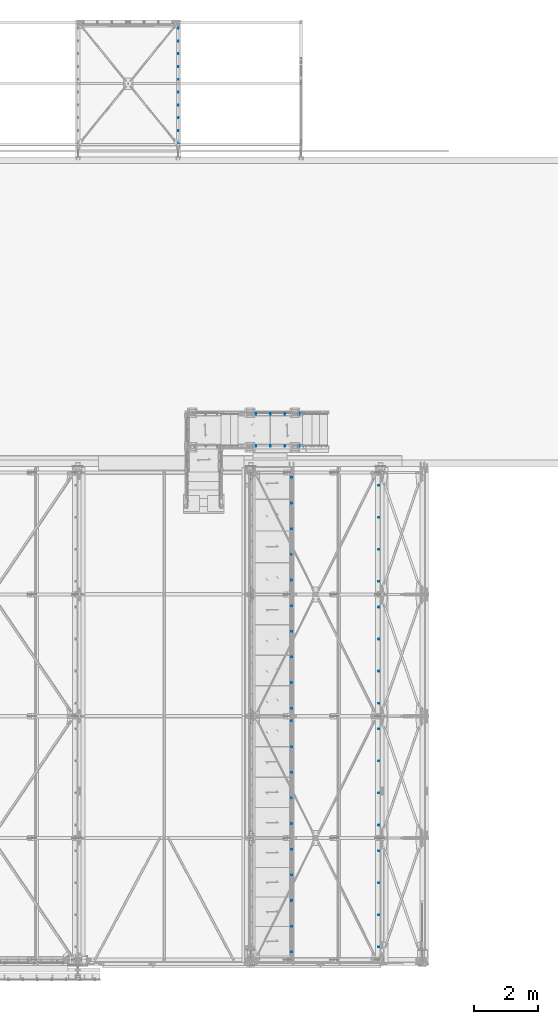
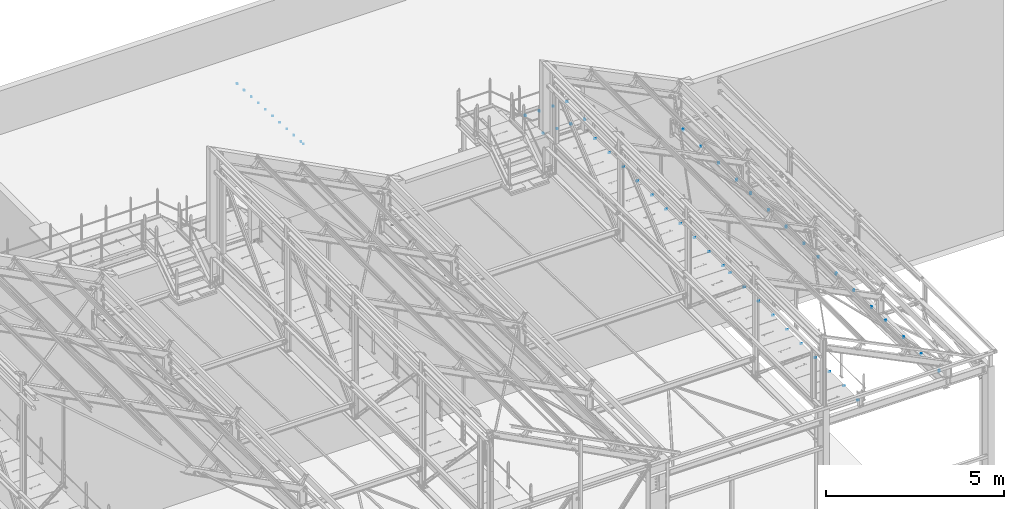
# One storey, part 139 of 362: 9 mechanical fasteners.
"""IFC2X3 building model written with IfcOpenShell, lengths in millimetres."""

from ifc_helpers import new_model, si_unit, frame, frame_2d, origin_with_axes, origin_2d_with_axis, place, context, subcontext, project, spatial, polyline, circle_curve, parameter, trimmed, segment, composite_curve, circle, outline, extrude, source, transform, mapped, material, type_object, element, save


model = new_model("IFC2X3")

# Units and contexts
model_context = context("Model", 3, precision=1e-05, world=origin_with_axes())
body_context = subcontext(model_context, "Body", "Model", "MODEL_VIEW")
ifc_project = project(units=[si_unit("LENGTHUNIT", "METRE", prefix="MILLI"), si_unit("AREAUNIT", "SQUARE_METRE"), si_unit("VOLUMEUNIT", "CUBIC_METRE"), si_unit("MASSUNIT", "GRAM", prefix="KILO"), si_unit("TIMEUNIT", "SECOND"), si_unit("PLANEANGLEUNIT", "RADIAN"), si_unit("SOLIDANGLEUNIT", "STERADIAN"), si_unit("THERMODYNAMICTEMPERATUREUNIT", "DEGREE_CELSIUS"), si_unit("LUMINOUSINTENSITYUNIT", "LUMEN")], contexts=[model_context])

# Site, building, storey
site_placement = place(None, origin_with_axes())
site = spatial("IfcSite", under=ifc_project, at=site_placement, Name="Undefined", CompositionType="ELEMENT")
building_placement = place(site_placement, origin_with_axes())
building = spatial("IfcBuilding", under=site, at=building_placement, Name="Undefined", CompositionType="ELEMENT")
storey_placement = place(building_placement, origin_with_axes())
storey = spatial("IfcBuildingStorey", under=building, at=storey_placement, Name="Undefined", CompositionType="ELEMENT", Elevation=0.0)

# Mechanical fasteners
ifc_material_1 = material(Name="8.8-SB-GALVA")
mechanical_fastener_type = type_object("IfcMechanicalFastenerType", Name="Bolt assembly")
shared_shape_1 = source(origin_with_axes(), body_context, "Body", "SweptSolid", [
    extrude(circle(Radius=7.0, at=origin_2d_with_axis()), frame((0.0, -9.89949506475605, 0.0), z_axis=(0.0, 1.0, 0.0), x_axis=(1.0, 0.0, 0.0)), (0.0, 0.0, 1.0), 10.0),
    extrude(circle(Radius=7.0, at=origin_2d_with_axis()), frame((0.0, -0.100011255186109, 0.0), z_axis=(0.0, 1.0, 0.0), x_axis=(1.0, 0.0, 0.0)), (0.0, 0.0, 1.0), 5.1),
    extrude(outline(polyline([(10.39230484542, 0.0), (5.19615242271, 9.00000000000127), (-5.19615242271, 9.00000000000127), (-10.39230484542, 0.0), (-5.19615242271, -9.00000000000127), (5.19615242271, -9.00000000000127), (10.39230484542, 0.0)])), frame((0.0, -17.919495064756, 0.0), z_axis=(0.0, 1.0, 0.0), x_axis=(1.0, 0.0, 0.0)), (0.0, 0.0, 1.0), 7.92),
    extrude(circle(Radius=6.0, at=origin_2d_with_axis()), frame((0.0, -9.99949506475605, 0.0), z_axis=(0.0, 1.0, 0.0), x_axis=(1.0, 0.0, 0.0)), (0.0, 0.0, 1.0), 30.0),
    extrude(outline(polyline([(11.5008173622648, 0.0), (5.7504086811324, 9.96000000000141), (-5.7504086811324, 9.96000000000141), (-11.5008173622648, 0.0), (-5.7504086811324, -9.96000000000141), (5.7504086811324, -9.96000000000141), (11.5008173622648, 0.0)])), frame((0.0, 5.0, 0.0), z_axis=(0.0, 1.0, 0.0), x_axis=(1.0, 0.0, 0.0)), (0.0, 0.0, 1.0), 7.92),
])
mechanical_fastener_1_placement = place(storey_placement, frame((35114.9999902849, 17029.999913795, 8049.9999407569), z_axis=(1.0, 0.0, 0.0), x_axis=(0.0, 0.0, 1.0)))
element("IfcMechanicalFastener", 1, at=mechanical_fastener_1_placement, inside=storey, type_object=mechanical_fastener_type, material=ifc_material_1, Name="Bolt assembly", NominalDiameter=12.0, NominalLength=30.0, context=body_context, shape_type="MappedRepresentation", body=[
    mapped(shared_shape_1, transform((0.0, 0.0, 675.0))),
    mapped(shared_shape_1, transform((0.0, 0.0, 225.0))),
    mapped(shared_shape_1, transform((0.0, 0.0, -225.0))),
    mapped(shared_shape_1, transform((0.0, 0.0, -675.0))),
])
shared_shape_2 = source(origin_with_axes(), body_context, "Body", "SweptSolid", [
    extrude(circle(Radius=7.0, at=origin_2d_with_axis()), frame((0.0, -9.9, 0.0), z_axis=(0.0, 1.0, 0.0), x_axis=(1.0, 0.0, 0.0)), (0.0, 0.0, 1.0), 10.0),
    extrude(circle(Radius=7.0, at=origin_2d_with_axis()), frame((0.0, -0.100011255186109, 0.0), z_axis=(0.0, 1.0, 0.0), x_axis=(1.0, 0.0, 0.0)), (0.0, 0.0, 1.0), 5.1),
    extrude(outline(polyline([(10.39230484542, 0.0), (5.19615242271, 9.00000000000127), (-5.19615242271, 9.00000000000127), (-10.39230484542, 0.0), (-5.19615242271, -9.00000000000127), (5.19615242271, -9.00000000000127), (10.39230484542, 0.0)])), frame((0.0, -17.92, 0.0), z_axis=(0.0, 1.0, 0.0), x_axis=(1.0, 0.0, 0.0)), (0.0, 0.0, 1.0), 7.92),
    extrude(circle(Radius=6.0, at=origin_2d_with_axis()), frame((0.0, -10.0000010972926, 0.0), z_axis=(0.0, 1.0, 0.0), x_axis=(1.0, 0.0, 0.0)), (0.0, 0.0, 1.0), 30.0),
    extrude(outline(polyline([(11.5008173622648, 0.0), (5.7504086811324, 9.96000000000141), (-5.7504086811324, 9.96000000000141), (-11.5008173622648, 0.0), (-5.7504086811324, -9.96000000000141), (5.7504086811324, -9.96000000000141), (11.5008173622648, 0.0)])), frame((0.0, 5.0, 0.0), z_axis=(0.0, 1.0, 0.0), x_axis=(1.0, 0.0, 0.0)), (0.0, 0.0, 1.0), 7.92),
])
mechanical_fastener_2_placement = place(storey_placement, frame((35114.9999902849, 16029.9996683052, 8049.9999407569), z_axis=(-1.0, 0.0, 0.0), x_axis=(0.0, 0.0, 1.0)))
element("IfcMechanicalFastener", 2, at=mechanical_fastener_2_placement, inside=storey, type_object=mechanical_fastener_type, material=ifc_material_1, Name="Bolt assembly", NominalDiameter=12.0, NominalLength=30.0, context=body_context, shape_type="MappedRepresentation", body=[
    mapped(shared_shape_2, transform((0.0, 0.0, -675.0))),
    mapped(shared_shape_2, transform((0.0, 0.0, -225.0))),
    mapped(shared_shape_2, transform((0.0, 0.0, 225.0))),
    mapped(shared_shape_2, transform((0.0, 0.0, 675.0))),
])
ifc_material_2 = material(Name="#_SB-8.8-ZINGUE")
shared_shape_3 = source(origin_with_axes(), body_context, "Body", "SweptSolid", [
    extrude(outline(composite_curve([segment(polyline([(-7.0, 7.0), (7.0, 7.0)]), True, "CONTINUOUS"), segment(trimmed(circle_curve(frame_2d((7.0, 0.0), x_axis=(0.0, 1.0)), 7.0), [parameter(0.0)], [parameter(3.14159265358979)], False, "PARAMETER"), True, "CONTINUOUS"), segment(polyline([(7.0, -7.0), (-7.0, -7.0)]), True, "CONTINUOUS"), segment(trimmed(circle_curve(frame_2d((-7.0, 0.0), x_axis=(0.0, -1.0)), 7.0), [parameter(0.0)], [parameter(3.14159265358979)], False, "PARAMETER"), True, "DISCONTINUOUS")], self_intersect=False)), frame((0.0, 0.0, 0.0), z_axis=(0.0, 1.0, 0.0), x_axis=(1.0, 0.0, 0.0)), (0.0, 0.0, 1.0), 7.5),
])
mechanical_fastener_3_placement = place(storey_placement, frame((32024.0000011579, 29060.1369729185, 2687.2020481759), z_axis=(-1.0, 0.0, 0.0), x_axis=(0.0, -0.998630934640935, 0.0523092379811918)))
element("IfcMechanicalFastener", 3, at=mechanical_fastener_3_placement, inside=storey, type_object=mechanical_fastener_type, material=ifc_material_2, Name="Bolt assembly", NominalDiameter=12.0, NominalLength=7.40000009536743, context=body_context, shape_type="MappedRepresentation", body=[
    mapped(shared_shape_3, transform((0.0, 0.0, 0.0))),
    mapped(shared_shape_3, transform((400.0, 0.0, 0.0))),
    mapped(shared_shape_3, transform((800.0, 0.0, 0.0))),
    mapped(shared_shape_3, transform((1200.0, 0.0, 0.0))),
    mapped(shared_shape_3, transform((1600.0, 0.0, 0.0))),
    mapped(shared_shape_3, transform((2000.0, 0.0, 0.0))),
    mapped(shared_shape_3, transform((2400.00000000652, -2.00816430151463e-09, 0.0))),
    mapped(shared_shape_3, transform((2800.0000000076, -2.34285835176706e-09, 0.0))),
    mapped(shared_shape_3, transform((3200.00000000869, -2.6775524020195e-09, 0.0))),
    mapped(shared_shape_3, transform((3600.00000000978, -3.01224645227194e-09, 0.0))),
    mapped(shared_shape_3, transform((3730.00000001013, -3.12138581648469e-09, 0.0))),
])
shared_shape_4 = source(origin_with_axes(), body_context, "Body", "SweptSolid", [
    extrude(circle(Radius=7.0, at=origin_2d_with_axis()), frame((0.0, -0.101465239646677, 0.0), z_axis=(0.0, 1.0, 0.0), x_axis=(1.0, 0.0, 0.0)), (0.0, 0.0, 1.0), 14.7),
    extrude(outline(composite_curve([segment(polyline([(-7.0, 7.0), (7.0, 7.0)]), True, "CONTINUOUS"), segment(trimmed(circle_curve(frame_2d((7.0, 0.0), x_axis=(0.0, 1.0)), 7.0), [parameter(0.0)], [parameter(3.14159265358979)], False, "PARAMETER"), True, "CONTINUOUS"), segment(polyline([(7.0, -7.0), (-7.0, -7.0)]), True, "CONTINUOUS"), segment(trimmed(circle_curve(frame_2d((-7.0, 0.0), x_axis=(0.0, -1.0)), 7.0), [parameter(0.0)], [parameter(3.14159265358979)], False, "PARAMETER"), True, "DISCONTINUOUS")], self_intersect=False)), frame((0.0, -1.90048839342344, 0.0), z_axis=(0.0, 1.0, 0.0), x_axis=(1.0, 0.0, 0.0)), (0.0, 0.0, 1.0), 2.0),
    extrude(outline(polyline([(10.39230484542, 0.0), (5.19615242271, 9.00000000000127), (-5.19615242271, 9.00000000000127), (-10.39230484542, 0.0), (-5.19615242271, -9.00000000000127), (5.19615242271, -9.00000000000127), (10.39230484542, 0.0)])), frame((0.0, -13.8804883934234, 0.0), z_axis=(0.0, 1.0, 0.0), x_axis=(1.0, 0.0, 0.0)), (0.0, 0.0, 1.0), 7.92),
    extrude(circle(Radius=6.0, at=origin_2d_with_axis()), frame((0.0, -5.96048839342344, 0.0), z_axis=(0.0, 1.0, 0.0), x_axis=(1.0, 0.0, 0.0)), (0.0, 0.0, 1.0), 40.0),
    extrude(circle(Radius=10.8, at=origin_2d_with_axis()), frame((0.0, -5.96048839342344, 0.0), z_axis=(0.0, 1.0, 0.0), x_axis=(1.0, 0.0, 0.0)), (0.0, 0.0, 1.0), 3.96),
    extrude(outline(polyline([(11.5008173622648, 0.0), (5.7504086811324, 9.96000000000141), (-5.7504086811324, 9.96000000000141), (-11.5008173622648, 0.0), (-5.7504086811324, -9.96000000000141), (5.7504086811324, -9.96000000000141), (11.5008173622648, 0.0)])), frame((0.0, 14.5985351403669, 0.0), z_axis=(0.0, 1.0, 0.0), x_axis=(1.0, 0.0, 0.0)), (0.0, 0.0, 1.0), 7.92),
])
mechanical_fastener_4_placement = place(storey_placement, frame((38275.0, 1899.68552408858, 7990.2999774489), z_axis=(0.0, -0.999506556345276, 0.031410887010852), x_axis=(-1.0, 0.0, 0.0)))
element("IfcMechanicalFastener", 4, at=mechanical_fastener_4_placement, inside=storey, type_object=mechanical_fastener_type, material=ifc_material_2, Name="Bolt assembly", NominalDiameter=12.0, NominalLength=40.0, context=body_context, shape_type="MappedRepresentation", body=[
    mapped(shared_shape_4, transform((0.0, 6.70297595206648e-10, -1499.99999999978))),
    mapped(shared_shape_4, transform((0.0, 2.2373569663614e-10, -499.999999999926))),
    mapped(shared_shape_4, transform((0.0, -2.2373569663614e-10, 499.999999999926))),
    mapped(shared_shape_4, transform((0.0, -6.71207089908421e-10, 1499.99999999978))),
])
shared_shape_5 = source(origin_with_axes(), body_context, "Body", "SweptSolid", [
    extrude(circle(Radius=7.0, at=origin_2d_with_axis()), frame((0.0, -0.101001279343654, 0.0), z_axis=(0.0, 1.0, 0.0), x_axis=(1.0, 0.0, 0.0)), (0.0, 0.0, 1.0), 14.7),
    extrude(outline(composite_curve([segment(polyline([(-7.0, 7.0), (7.0, 7.0)]), True, "CONTINUOUS"), segment(trimmed(circle_curve(frame_2d((7.0, 0.0), x_axis=(0.0, 1.0)), 7.0), [parameter(0.0)], [parameter(3.14159265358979)], False, "PARAMETER"), True, "CONTINUOUS"), segment(polyline([(7.0, -7.0), (-7.0, -7.0)]), True, "CONTINUOUS"), segment(trimmed(circle_curve(frame_2d((-7.0, 0.0), x_axis=(0.0, -1.0)), 7.0), [parameter(0.0)], [parameter(3.14159265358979)], False, "PARAMETER"), True, "DISCONTINUOUS")], self_intersect=False)), frame((0.0, -1.90048839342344, 0.0), z_axis=(0.0, 1.0, 0.0), x_axis=(1.0, 0.0, 0.0)), (0.0, 0.0, 1.0), 2.0),
    extrude(outline(polyline([(10.39230484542, 0.0), (5.19615242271, 9.00000000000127), (-5.19615242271, 9.00000000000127), (-10.39230484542, 0.0), (-5.19615242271, -9.00000000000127), (5.19615242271, -9.00000000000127), (10.39230484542, 0.0)])), frame((0.0, -13.8804883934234, 0.0), z_axis=(0.0, 1.0, 0.0), x_axis=(1.0, 0.0, 0.0)), (0.0, 0.0, 1.0), 7.92),
    extrude(circle(Radius=6.0, at=origin_2d_with_axis()), frame((0.0, -5.96048839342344, 0.0), z_axis=(0.0, 1.0, 0.0), x_axis=(1.0, 0.0, 0.0)), (0.0, 0.0, 1.0), 40.0),
    extrude(circle(Radius=10.8, at=origin_2d_with_axis()), frame((0.0, -5.96048839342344, 0.0), z_axis=(0.0, 1.0, 0.0), x_axis=(1.0, 0.0, 0.0)), (0.0, 0.0, 1.0), 3.96),
    extrude(outline(polyline([(11.5008173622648, 0.0), (5.7504086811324, 9.96000000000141), (-5.7504086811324, 9.96000000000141), (-11.5008173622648, 0.0), (-5.7504086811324, -9.96000000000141), (5.7504086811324, -9.96000000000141), (11.5008173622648, 0.0)])), frame((0.0, 14.59899910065, 0.0), z_axis=(0.0, 1.0, 0.0), x_axis=(1.0, 0.0, 0.0)), (0.0, 0.0, 1.0), 7.92),
])
mechanical_fastener_5_placement = place(storey_placement, frame((38275.0, 5699.68553863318, 7870.88016628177), z_axis=(0.0, -0.999506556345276, 0.031410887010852), x_axis=(-1.0, 0.0, 0.0)))
element("IfcMechanicalFastener", 5, at=mechanical_fastener_5_placement, inside=storey, type_object=mechanical_fastener_type, material=ifc_material_2, Name="Bolt assembly", NominalDiameter=12.0, NominalLength=40.0, context=body_context, shape_type="MappedRepresentation", body=[
    mapped(shared_shape_5, transform((0.0, 6.70297595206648e-10, -1499.99999999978))),
    mapped(shared_shape_5, transform((0.0, 2.2373569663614e-10, -499.999999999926))),
    mapped(shared_shape_5, transform((0.0, -2.2373569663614e-10, 499.999999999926))),
    mapped(shared_shape_5, transform((0.0, -6.71207089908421e-10, 1499.99999999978))),
])
shared_shape_6 = source(origin_with_axes(), body_context, "Body", "SweptSolid", [
    extrude(circle(Radius=7.0, at=origin_2d_with_axis()), frame((0.0, -0.10007666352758, 0.0), z_axis=(0.0, 1.0, 0.0), x_axis=(1.0, 0.0, 0.0)), (0.0, 0.0, 1.0), 14.7),
    extrude(outline(composite_curve([segment(polyline([(-7.0, 7.0), (7.0, 7.0)]), True, "CONTINUOUS"), segment(trimmed(circle_curve(frame_2d((7.0, 0.0), x_axis=(0.0, 1.0)), 7.0), [parameter(0.0)], [parameter(3.14159265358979)], False, "PARAMETER"), True, "CONTINUOUS"), segment(polyline([(7.0, -7.0), (-7.0, -7.0)]), True, "CONTINUOUS"), segment(trimmed(circle_curve(frame_2d((-7.0, 0.0), x_axis=(0.0, -1.0)), 7.0), [parameter(0.0)], [parameter(3.14159265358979)], False, "PARAMETER"), True, "DISCONTINUOUS")], self_intersect=False)), frame((0.0, -1.90000109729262, 0.0), z_axis=(0.0, 1.0, 0.0), x_axis=(1.0, 0.0, 0.0)), (0.0, 0.0, 1.0), 2.0),
    extrude(outline(polyline([(10.39230484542, 0.0), (5.19615242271, 9.00000000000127), (-5.19615242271, 9.00000000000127), (-10.39230484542, 0.0), (-5.19615242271, -9.00000000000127), (5.19615242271, -9.00000000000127), (10.39230484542, 0.0)])), frame((0.0, -13.8800244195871, 0.0), z_axis=(0.0, 1.0, 0.0), x_axis=(1.0, 0.0, 0.0)), (0.0, 0.0, 1.0), 7.92),
    extrude(circle(Radius=6.0, at=origin_2d_with_axis()), frame((0.0, -5.96002441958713, 0.0), z_axis=(0.0, 1.0, 0.0), x_axis=(1.0, 0.0, 0.0)), (0.0, 0.0, 1.0), 40.0),
    extrude(circle(Radius=10.8, at=origin_2d_with_axis()), frame((0.0, -5.96002441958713, 0.0), z_axis=(0.0, 1.0, 0.0), x_axis=(1.0, 0.0, 0.0)), (0.0, 0.0, 1.0), 3.96),
    extrude(outline(polyline([(11.5008173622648, 0.0), (5.7504086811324, 9.96000000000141), (-5.7504086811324, 9.96000000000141), (-11.5008173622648, 0.0), (-5.7504086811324, -9.96000000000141), (5.7504086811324, -9.96000000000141), (11.5008173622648, 0.0)])), frame((0.0, 14.5999270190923, 0.0), z_axis=(0.0, 1.0, 0.0), x_axis=(1.0, 0.0, 0.0)), (0.0, 0.0, 1.0), 7.92),
])
mechanical_fastener_6_placement = place(storey_placement, frame((38275.0, 13299.6855676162, 7632.04054395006), z_axis=(0.0, -0.999506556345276, 0.031410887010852), x_axis=(-1.0, 0.0, 0.0)))
element("IfcMechanicalFastener", 6, at=mechanical_fastener_6_placement, inside=storey, type_object=mechanical_fastener_type, material=ifc_material_2, Name="Bolt assembly", NominalDiameter=12.0, NominalLength=40.0, context=body_context, shape_type="MappedRepresentation", body=[
    mapped(shared_shape_6, transform((0.0, 6.70297595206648e-10, -1499.99999999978))),
    mapped(shared_shape_6, transform((0.0, 2.2373569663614e-10, -499.999999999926))),
    mapped(shared_shape_6, transform((0.0, -2.2373569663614e-10, 499.999999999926))),
    mapped(shared_shape_6, transform((0.0, -6.71207089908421e-10, 1499.99999999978))),
])
shared_shape_7 = source(origin_with_axes(), body_context, "Body", "SweptSolid", [
    extrude(circle(Radius=7.0, at=origin_2d_with_axis()), frame((0.0, -0.100537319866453, 0.0), z_axis=(0.0, 1.0, 0.0), x_axis=(1.0, 0.0, 0.0)), (0.0, 0.0, 1.0), 14.7),
    extrude(outline(composite_curve([segment(polyline([(-7.0, 7.0), (7.0, 7.0)]), True, "CONTINUOUS"), segment(trimmed(circle_curve(frame_2d((7.0, 0.0), x_axis=(0.0, 1.0)), 7.0), [parameter(0.0)], [parameter(3.14159265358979)], False, "PARAMETER"), True, "CONTINUOUS"), segment(polyline([(7.0, -7.0), (-7.0, -7.0)]), True, "CONTINUOUS"), segment(trimmed(circle_curve(frame_2d((-7.0, 0.0), x_axis=(0.0, -1.0)), 7.0), [parameter(0.0)], [parameter(3.14159265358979)], False, "PARAMETER"), True, "DISCONTINUOUS")], self_intersect=False)), frame((0.0, -1.90048839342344, 0.0), z_axis=(0.0, 1.0, 0.0), x_axis=(1.0, 0.0, 0.0)), (0.0, 0.0, 1.0), 2.0),
    extrude(outline(polyline([(10.39230484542, 0.0), (5.19615242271, 9.00000000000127), (-5.19615242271, 9.00000000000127), (-10.39230484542, 0.0), (-5.19615242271, -9.00000000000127), (5.19615242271, -9.00000000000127), (10.39230484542, 0.0)])), frame((0.0, -13.8804883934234, 0.0), z_axis=(0.0, 1.0, 0.0), x_axis=(1.0, 0.0, 0.0)), (0.0, 0.0, 1.0), 7.92),
    extrude(circle(Radius=6.0, at=origin_2d_with_axis()), frame((0.0, -5.96048839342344, 0.0), z_axis=(0.0, 1.0, 0.0), x_axis=(1.0, 0.0, 0.0)), (0.0, 0.0, 1.0), 40.0),
    extrude(circle(Radius=10.8, at=origin_2d_with_axis()), frame((0.0, -5.96048839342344, 0.0), z_axis=(0.0, 1.0, 0.0), x_axis=(1.0, 0.0, 0.0)), (0.0, 0.0, 1.0), 3.96),
    extrude(outline(polyline([(11.5008173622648, 0.0), (5.7504086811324, 9.96000000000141), (-5.7504086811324, 9.96000000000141), (-11.5008173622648, 0.0), (-5.7504086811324, -9.96000000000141), (5.7504086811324, -9.96000000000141), (11.5008173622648, 0.0)])), frame((0.0, 14.5994630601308, 0.0), z_axis=(0.0, 1.0, 0.0), x_axis=(1.0, 0.0, 0.0)), (0.0, 0.0, 1.0), 7.92),
])
mechanical_fastener_7_placement = place(storey_placement, frame((38275.0, 9499.68555317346, 7751.46035511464), z_axis=(0.0, -0.999506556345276, 0.031410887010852), x_axis=(-1.0, 0.0, 0.0)))
element("IfcMechanicalFastener", 7, at=mechanical_fastener_7_placement, inside=storey, type_object=mechanical_fastener_type, material=ifc_material_2, Name="Bolt assembly", NominalDiameter=12.0, NominalLength=40.0, context=body_context, shape_type="MappedRepresentation", body=[
    mapped(shared_shape_7, transform((0.0, 6.70297595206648e-10, -1499.99999999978))),
    mapped(shared_shape_7, transform((0.0, 2.2373569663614e-10, -499.999999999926))),
    mapped(shared_shape_7, transform((0.0, -2.2373569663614e-10, 499.999999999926))),
    mapped(shared_shape_7, transform((0.0, -6.71207089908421e-10, 1499.99999999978))),
])
ifc_material_3 = material(Name="8.8-SB-ZINGUE")
shared_shape_8 = source(origin_with_axes(), body_context, "Body", "SweptSolid", [
    extrude(circle(Radius=7.0, at=origin_2d_with_axis()), frame((0.0, -5.00000000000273, 0.0), z_axis=(0.0, 1.0, 0.0), x_axis=(1.0, 0.0, 0.0)), (0.0, 0.0, 1.0), 5.1),
    extrude(outline(polyline([(10.39230484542, 0.0), (5.19615242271, 9.00000000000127), (-5.19615242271, 9.00000000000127), (-10.39230484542, 0.0), (-5.19615242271, -9.00000000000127), (5.19615242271, -9.00000000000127), (10.39230484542, 0.0)])), frame((0.0, -12.9200004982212, 0.0), z_axis=(0.0, 1.0, 0.0), x_axis=(1.0, 0.0, 0.0)), (0.0, 0.0, 1.0), 7.92),
    extrude(circle(Radius=6.0, at=origin_2d_with_axis()), frame((0.0, -5.00000000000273, 0.0), z_axis=(0.0, 1.0, 0.0), x_axis=(1.0, 0.0, 0.0)), (0.0, 0.0, 1.0), 30.0),
    extrude(outline(polyline([(11.5008173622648, 0.0), (5.7504086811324, 9.96000000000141), (-5.7504086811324, 9.96000000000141), (-11.5008173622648, 0.0), (-5.7504086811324, -9.96000000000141), (5.7504086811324, -9.96000000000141), (11.5008173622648, 0.0)])), frame((0.0, 0.0, 0.0), z_axis=(0.0, 1.0, 0.0), x_axis=(1.0, 0.0, 0.0)), (0.0, 0.0, 1.0), 7.92),
])
for number, where, z_axis, x_axis, name in (
    (8, (35546.4917140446, 3845.00004469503, 8070.00000000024), (0.0, 1.0, 0.0), (0.0, 0.0, 1.0), "Bolt assembly"),
    (9, (35546.4917140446, 11442.5000449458, 8070.00000000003), (0.0, 1.0, 0.0), (0.0, 0.0, 1.0), "Bolt assembly"),
):
    element("IfcMechanicalFastener", number, at=place(storey_placement, frame(where, z_axis=z_axis, x_axis=x_axis)), inside=storey, type_object=mechanical_fastener_type, material=ifc_material_3, Name=name, NominalDiameter=12.0, NominalLength=30.0, context=body_context, shape_type="MappedRepresentation", body=[
        mapped(shared_shape_8, transform((0.0, 0.0, -3600.0))),
        mapped(shared_shape_8, transform((0.0, 0.0, -2800.0))),
        mapped(shared_shape_8, transform((0.0, 0.0, -2000.0))),
        mapped(shared_shape_8, transform((0.0, 0.0, -1200.0))),
        mapped(shared_shape_8, transform((0.0, 0.0, -400.0))),
        mapped(shared_shape_8, transform((0.0, 0.0, 400.0))),
        mapped(shared_shape_8, transform((0.0, 0.0, 1200.0))),
        mapped(shared_shape_8, transform((0.0, 0.0, 2000.0))),
        mapped(shared_shape_8, transform((0.0, 0.0, 2800.0))),
        mapped(shared_shape_8, transform((0.0, 0.0, 3600.0))),
    ])

save(model, "model.ifc")
